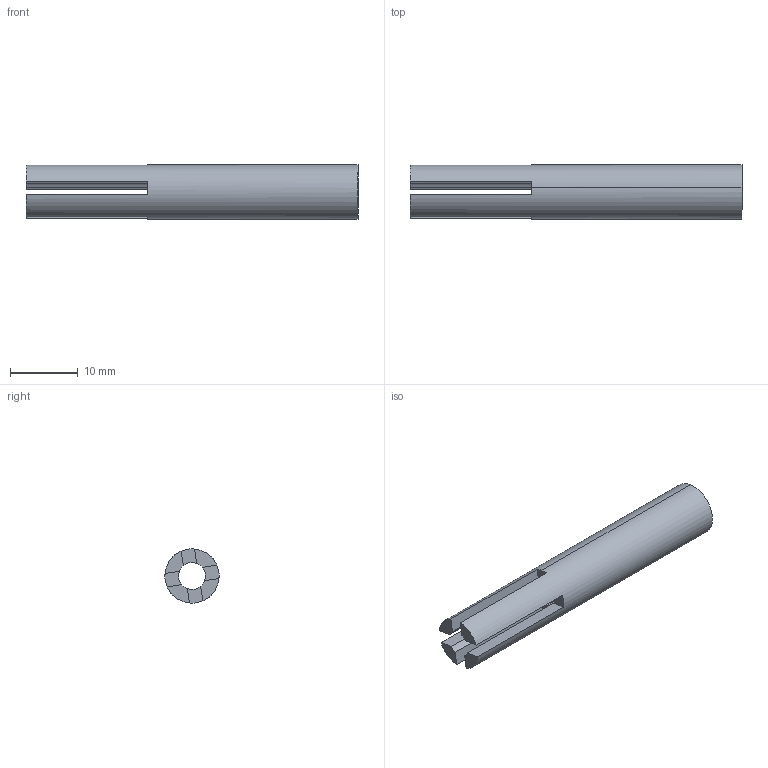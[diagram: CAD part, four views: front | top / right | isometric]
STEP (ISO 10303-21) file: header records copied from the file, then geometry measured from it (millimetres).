
FILE_DESCRIPTION( ('This file contains a STEP AP42 implementation' ,'as created by ZW3D STEP Interface translator.') ,'2;1' );
FILE_NAME( 'zkj-蹟隊.stp' ,'23 9 3.214431', (''), ('ZWCAD Software Co.'), 'Version 1.0', 'ZW3D to STEP translator', '' );
FILE_SCHEMA(('AUTOMOTIVE_DESIGN { 1 0 10303 214 1 1 1 1 }'));
Length unit declared in the file: millimetre
Products named in the file (2): 0; zkj-蹟隊
Bounding box: 49 x 8 x 8 mm (x, y, z)
Volume: 1552.8 mm3; surface area: 1934.6 mm2
Topology: 1 solids, 1 shells, 21 faces, 60 edges, 40 vertices
Faces by surface type: plane 17, cylinder 4
Entity records: 760 total; most frequent: DIRECTION 128, CARTESIAN_POINT 122, ORIENTED_EDGE 120, EDGE_CURVE 60, AXIS2_PLACEMENT_3D 46, VERTEX_POINT 40, VECTOR 36, LINE 36
